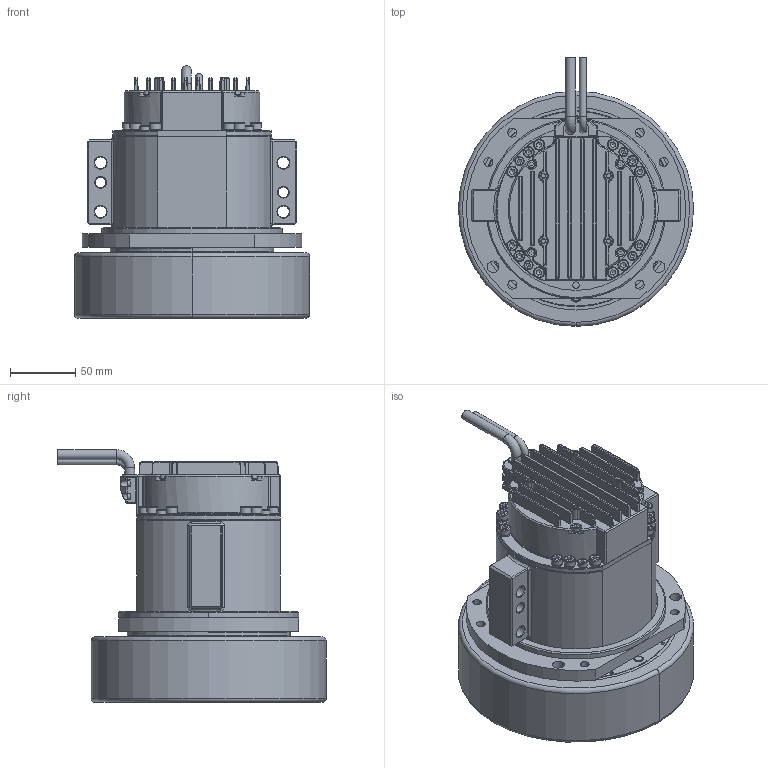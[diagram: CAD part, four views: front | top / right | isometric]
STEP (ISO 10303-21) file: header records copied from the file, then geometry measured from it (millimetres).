
FILE_DESCRIPTION (( 'STEP AP203' ), '1' );
FILE_NAME ('307090064SS （iWMC10415-05417-A180-MBDT）-V1.0.STEP', '2023-06-30T03:10:37', ( '' ), ( '' ), 'SwSTEP 2.0', 'SolidWorks 2022', '' );
FILE_SCHEMA (( 'CONFIG_CONTROL_DESIGN' ));
Length unit declared in the file: millimetre
Products named in the file (1): 307090064SS （iWMC10415-05417-A180-MBDT）-V1.0
Bounding box: 180 x 205.5 x 193.3 mm (x, y, z)
Volume: 1675049.6 mm3; surface area: 539130.6 mm2
Topology: 70 solids, 70 shells, 2738 faces, 6344 edges, 3837 vertices
Faces by surface type: cylinder 932, plane 932, cone 609, torus 173, bspline 70, sphere 22
Full cylindrical faces by diameter (mm): 2 x2, 2.5 x120, 2.7 x8, 3 x4, 3.3 x4, 3.5 x6, 4 x7, 4.5 x8, 5 x14, 5.4 x12, 5.5 x33, 7 x4, 7.6 x3, 8 x14, 8.5 x12, 9 x4, 24 x1, 26 x1, 37 x1, 42 x1, 47 x1, 65 x1, 102.8 x1, 103 x1, 104 x1, 105 x3
Entity records: 78815 total; most frequent: CARTESIAN_POINT 18873, DIRECTION 13084, ORIENTED_EDGE 11174, EDGE_CURVE 5587, AXIS2_PLACEMENT_3D 5319, EDGE_LOOP 3738, VERTEX_POINT 3731, FACE_OUTER_BOUND 3004
